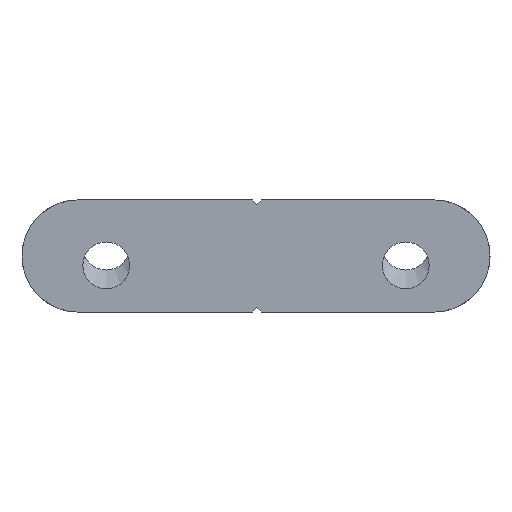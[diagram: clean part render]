
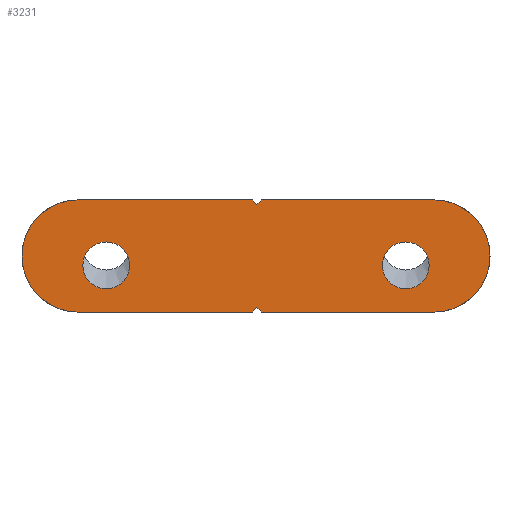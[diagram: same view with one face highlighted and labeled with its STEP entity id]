
A CAD part, front view. The second image highlights one B-rep face of the part: STEP entity #3231.
In plain terms, the highlighted planar face has unit normal (0, -1, 0) as drawn and (0, 1, 0) by its records, which use the part's own axes.
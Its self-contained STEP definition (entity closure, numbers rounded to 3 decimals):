
#88=CIRCLE('',#3456,2.5);
#89=CIRCLE('',#3457,2.5);
#90=CIRCLE('',#3458,6.);
#91=CIRCLE('',#3459,6.);
#849=ORIENTED_EDGE('',*,*,#1570,.T.);
#850=ORIENTED_EDGE('',*,*,#1571,.T.);
#851=ORIENTED_EDGE('',*,*,#1572,.T.);
#852=ORIENTED_EDGE('',*,*,#1573,.T.);
#853=ORIENTED_EDGE('',*,*,#1510,.F.);
#854=ORIENTED_EDGE('',*,*,#1574,.T.);
#855=ORIENTED_EDGE('',*,*,#1561,.F.);
#856=ORIENTED_EDGE('',*,*,#1575,.F.);
#857=ORIENTED_EDGE('',*,*,#1576,.F.);
#858=ORIENTED_EDGE('',*,*,#1569,.F.);
#859=ORIENTED_EDGE('',*,*,#1577,.T.);
#860=ORIENTED_EDGE('',*,*,#1578,.F.);
#1510=EDGE_CURVE('',#1907,#1908,#2188,.T.);
#1561=EDGE_CURVE('',#1957,#1958,#2199,.T.);
#1569=EDGE_CURVE('',#1965,#1960,#2207,.T.);
#1570=EDGE_CURVE('',#1966,#1966,#88,.T.);
#1571=EDGE_CURVE('',#1967,#1967,#89,.T.);
#1572=EDGE_CURVE('',#1968,#1969,#2208,.T.);
#1573=EDGE_CURVE('',#1969,#1908,#2209,.T.);
#1574=EDGE_CURVE('',#1907,#1958,#90,.F.);
#1575=EDGE_CURVE('',#1970,#1957,#2210,.T.);
#1576=EDGE_CURVE('',#1960,#1970,#2211,.T.);
#1577=EDGE_CURVE('',#1965,#1971,#91,.F.);
#1578=EDGE_CURVE('',#1968,#1971,#2212,.T.);
#1907=VERTEX_POINT('',#5303);
#1908=VERTEX_POINT('',#5304);
#1957=VERTEX_POINT('',#5550);
#1958=VERTEX_POINT('',#5552);
#1960=VERTEX_POINT('',#5558);
#1965=VERTEX_POINT('',#5567);
#1966=VERTEX_POINT('',#5571);
#1967=VERTEX_POINT('',#5573);
#1968=VERTEX_POINT('',#5575);
#1969=VERTEX_POINT('',#5576);
#1970=VERTEX_POINT('',#5580);
#1971=VERTEX_POINT('',#5583);
#2188=LINE('',#5302,#2439);
#2199=LINE('',#5551,#2450);
#2207=LINE('',#5568,#2458);
#2208=LINE('',#5574,#2459);
#2209=LINE('',#5577,#2460);
#2210=LINE('',#5579,#2461);
#2211=LINE('',#5581,#2462);
#2212=LINE('',#5584,#2463);
#2439=VECTOR('',#3904,1000.);
#2450=VECTOR('',#3919,1000.);
#2458=VECTOR('',#3929,1000.);
#2459=VECTOR('',#3936,1000.);
#2460=VECTOR('',#3937,1000.);
#2461=VECTOR('',#3940,1000.);
#2462=VECTOR('',#3941,1000.);
#2463=VECTOR('',#3944,1000.);
#2668=EDGE_LOOP('',(#849));
#2669=EDGE_LOOP('',(#850));
#2670=EDGE_LOOP('',(#851,#852,#853,#854,#855,#856,#857,#858,#859,#860));
#2884=FACE_BOUND('',#2668,.T.);
#2885=FACE_BOUND('',#2669,.T.);
#2886=FACE_BOUND('',#2670,.T.);
#3062=PLANE('',#3455);
#3231=ADVANCED_FACE('',(#2884,#2885,#2886),#3062,.F.);
#3455=AXIS2_PLACEMENT_3D('',#5569,#3930,#3931);
#3456=AXIS2_PLACEMENT_3D('',#5570,#3932,#3933);
#3457=AXIS2_PLACEMENT_3D('',#5572,#3934,#3935);
#3458=AXIS2_PLACEMENT_3D('',#5578,#3938,#3939);
#3459=AXIS2_PLACEMENT_3D('',#5582,#3942,#3943);
#3904=DIRECTION('',(-1.,0.,0.));
#3919=DIRECTION('',(1.,0.,0.));
#3929=DIRECTION('',(1.,0.,0.));
#3930=DIRECTION('',(0.,-1.,0.));
#3931=DIRECTION('',(0.,0.,-1.));
#3932=DIRECTION('',(0.,-1.,0.));
#3933=DIRECTION('',(0.,0.,-1.));
#3934=DIRECTION('',(0.,-1.,0.));
#3935=DIRECTION('',(0.,0.,-1.));
#3936=DIRECTION('',(0.707,0.,-0.707));
#3937=DIRECTION('',(0.707,0.,0.707));
#3938=DIRECTION('',(0.,-1.,0.));
#3939=DIRECTION('',(0.,0.,-1.));
#3940=DIRECTION('',(0.707,0.,-0.707));
#3941=DIRECTION('',(0.707,0.,0.707));
#3942=DIRECTION('',(0.,-1.,0.));
#3943=DIRECTION('',(0.,0.,-1.));
#3944=DIRECTION('',(-1.,0.,0.));
#5302=CARTESIAN_POINT('',(6.741,0.,49.529));
#5303=CARTESIAN_POINT('',(0.741,0.,49.529));
#5304=CARTESIAN_POINT('',(-17.685,0.,49.529));
#5550=CARTESIAN_POINT('',(-17.685,0.,37.529));
#5551=CARTESIAN_POINT('',(-43.259,0.,37.529));
#5552=CARTESIAN_POINT('',(0.741,0.,37.529));
#5558=CARTESIAN_POINT('',(-18.685,0.,37.529));
#5567=CARTESIAN_POINT('',(-37.259,0.,37.529));
#5568=CARTESIAN_POINT('',(-43.259,0.,37.529));
#5569=CARTESIAN_POINT('',(-43.259,0.,37.529));
#5570=CARTESIAN_POINT('',(-34.259,0.,44.529));
#5571=CARTESIAN_POINT('',(-34.259,0.,42.029));
#5572=CARTESIAN_POINT('',(-2.259,0.,44.529));
#5573=CARTESIAN_POINT('',(-2.259,0.,42.029));
#5574=CARTESIAN_POINT('',(-24.972,0.,55.816));
#5575=CARTESIAN_POINT('',(-18.685,0.,49.529));
#5576=CARTESIAN_POINT('',(-18.185,0.,49.029));
#5577=CARTESIAN_POINT('',(-36.472,0.,30.742));
#5578=CARTESIAN_POINT('',(0.741,0.,43.529));
#5579=CARTESIAN_POINT('',(-30.472,0.,50.316));
#5580=CARTESIAN_POINT('',(-18.185,0.,38.029));
#5581=CARTESIAN_POINT('',(-30.972,0.,25.242));
#5582=CARTESIAN_POINT('',(-37.259,0.,43.529));
#5583=CARTESIAN_POINT('',(-37.259,0.,49.529));
#5584=CARTESIAN_POINT('',(6.741,0.,49.529));
